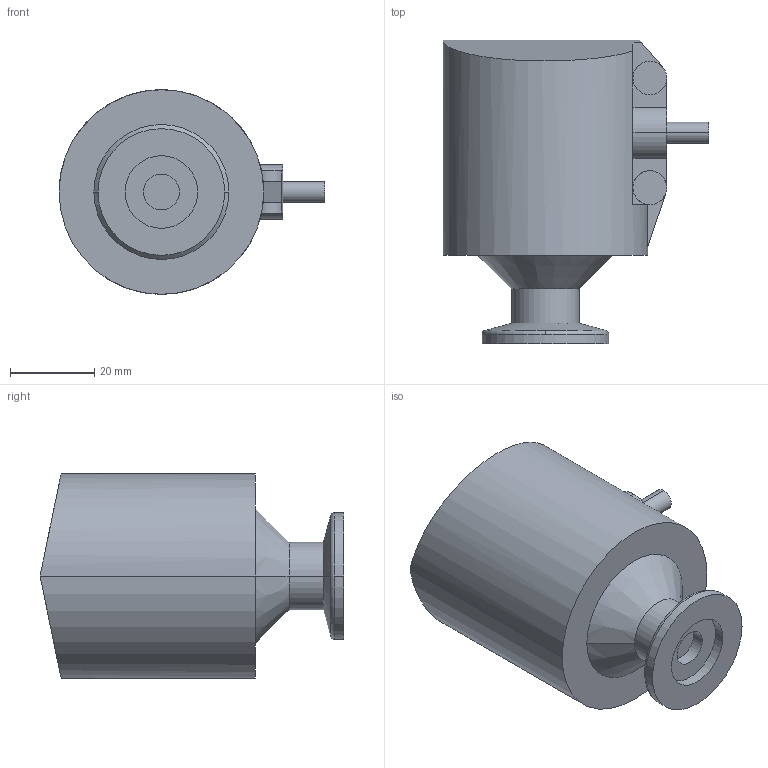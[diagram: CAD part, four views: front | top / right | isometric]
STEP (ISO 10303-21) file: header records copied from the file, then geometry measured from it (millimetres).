
FILE_DESCRIPTION((''),'2;1');
FILE_NAME('U:\Projekte\11741 3D Modelle\Leybold\230011.stp','2004-12-17T09:09:04',('BEM'),(''),'Autodesk Inventor 9','Autodesk Inventor 9','');
FILE_SCHEMA(('AUTOMOTIVE_DESIGN { 1 0 10303 214 1 1 1 1 }'));
Length unit declared in the file: millimetre
Products named in the file (1): 230011
Bounding box: 63 x 72 x 48.5 mm (x, y, z)
Volume: 98351 mm3; surface area: 14305 mm2
Topology: 1 solids, 1 shells, 60 faces, 141 edges, 86 vertices
Faces by surface type: plane 30, cylinder 24, cone 4, torus 2
Entity records: 1772 total; most frequent: DIRECTION 333, CARTESIAN_POINT 292, ORIENTED_EDGE 290, EDGE_CURVE 145, AXIS2_PLACEMENT_3D 127, VERTEX_POINT 86, VECTOR 79, LINE 79
